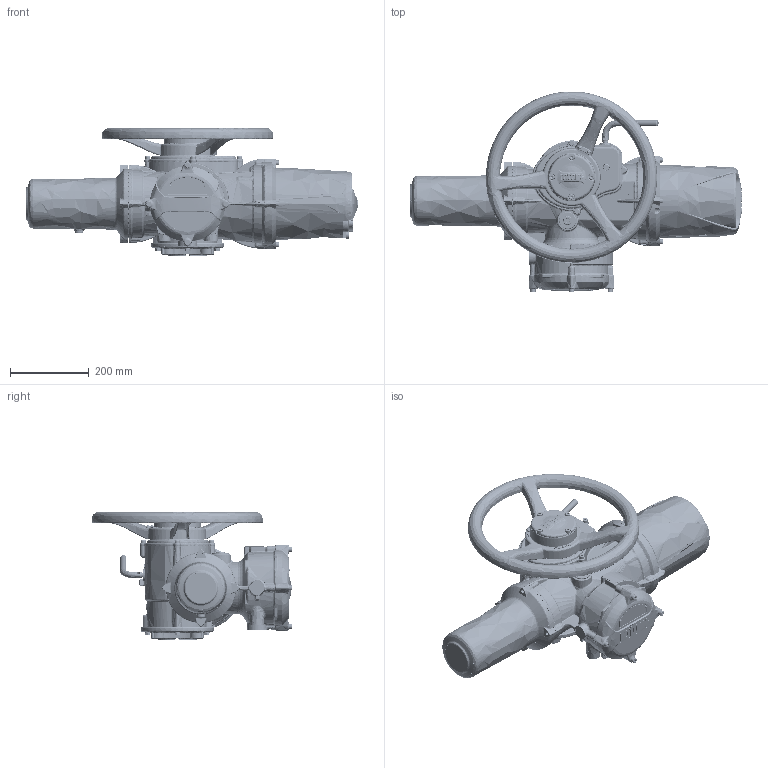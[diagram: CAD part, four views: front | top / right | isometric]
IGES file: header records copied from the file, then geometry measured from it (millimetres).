
Start section: C
Global section: file name: IQ3H-2SP-THW-B3B4-1.igs; native system: By Siemens PLM Incorporated; preprocessor: XPlus GENERIC/IGES 23.0.57; author: Author; organization: Title; date: 20210329.112652; units: millimetre
Bounding box: 843.5 x 510.09 x 325.74 mm (x, y, z)
Surface area: 1283289.9 mm2 (no closed solid volume)
Topology: 0 solids, 0 shells, 6503 faces, 36305 edges, 36031 vertices
Faces by surface type: bspline 6503
